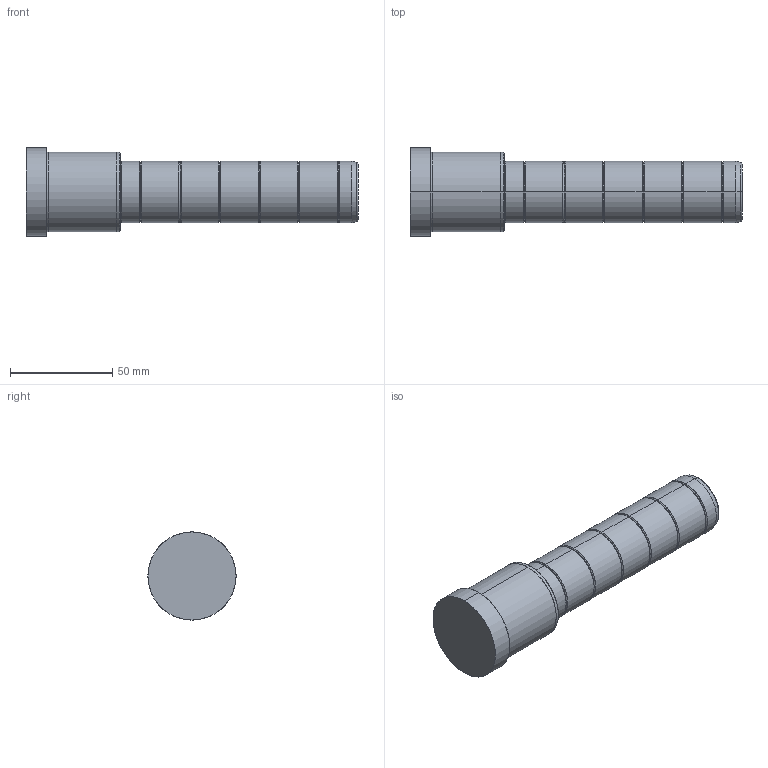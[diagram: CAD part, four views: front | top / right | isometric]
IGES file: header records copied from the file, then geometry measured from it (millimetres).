
Start section: SolidWorks IGES file using analytic representation for surfaces
Global section: file name: C:\Documents and Settings\kalite-mail\Desktop\IGS\D02\30\D02 - 30x46x116.IGS; native system: SolidWorks 2008; preprocessor: SolidWorks 2008; author: kalite-mail; date: 080617.090821; units: millimetre
Bounding box: 162 x 43 x 43 mm (x, y, z)
Surface area: 19758.9 mm2 (no closed solid volume)
Topology: 0 solids, 0 shells, 60 faces, 824 edges, 824 vertices
Faces by surface type: bspline 34, revolution 26
